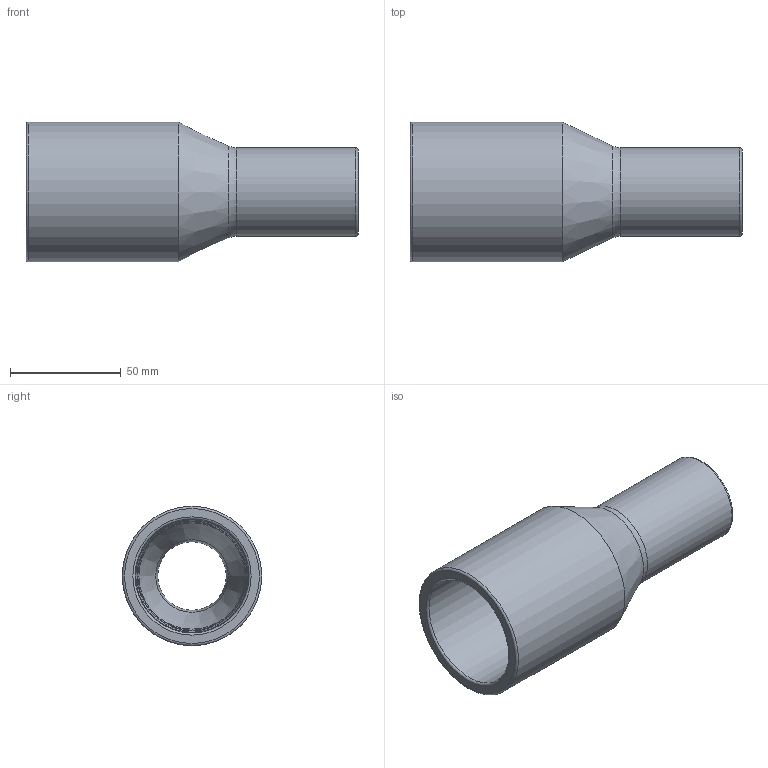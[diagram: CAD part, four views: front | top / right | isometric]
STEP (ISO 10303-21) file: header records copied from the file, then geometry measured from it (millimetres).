
FILE_DESCRIPTION(/* description */ (''),/* implementation_level */ '2;1');
FILE_NAME(/* name */ 'X:\Bänninger\ACAD\Katalogteile\PE\Reduktion\Reduktion 63-40.stp',/* time_stamp */ '2018-12-06T09:33:57+01:00',/* author */ ('Kathrin.Davari'),/* organization */ (''),/* preprocessor_version */ 'ST-DEVELOPER v15.2',/* originating_system */ 'Autodesk Inventor 2014',/* authorisation */ '473802 mm^3');
FILE_SCHEMA (('AUTOMOTIVE_DESIGN { 1 0 10303 214 3 1 1 }'));
Length unit declared in the file: millimetre
Products named in the file (1): Reduktion 63-50-40-32
Bounding box: 150 x 63 x 63 mm (x, y, z)
Volume: 121720.5 mm3; surface area: 46306.8 mm2
Topology: 1 solids, 1 shells, 23 faces, 44 edges, 23 vertices
Faces by surface type: torus 11, cylinder 6, cone 4, plane 2
Full cylindrical faces by diameter (mm): 31 x1, 32.6 x1, 40 x1, 49 x1, 51.4 x1, 63 x1
Entity records: 492 total; most frequent: DIRECTION 94, CARTESIAN_POINT 70, AXIS2_PLACEMENT_3D 47, EDGE_LOOP 46, ORIENTED_EDGE 46, FACE_BOUND 23, FACE_OUTER_BOUND 23, CIRCLE 23
